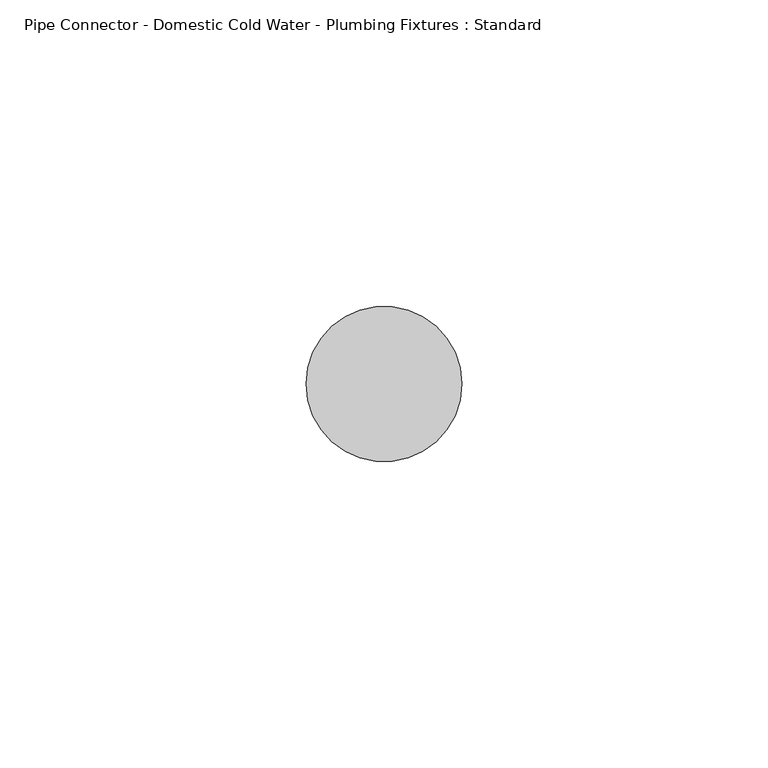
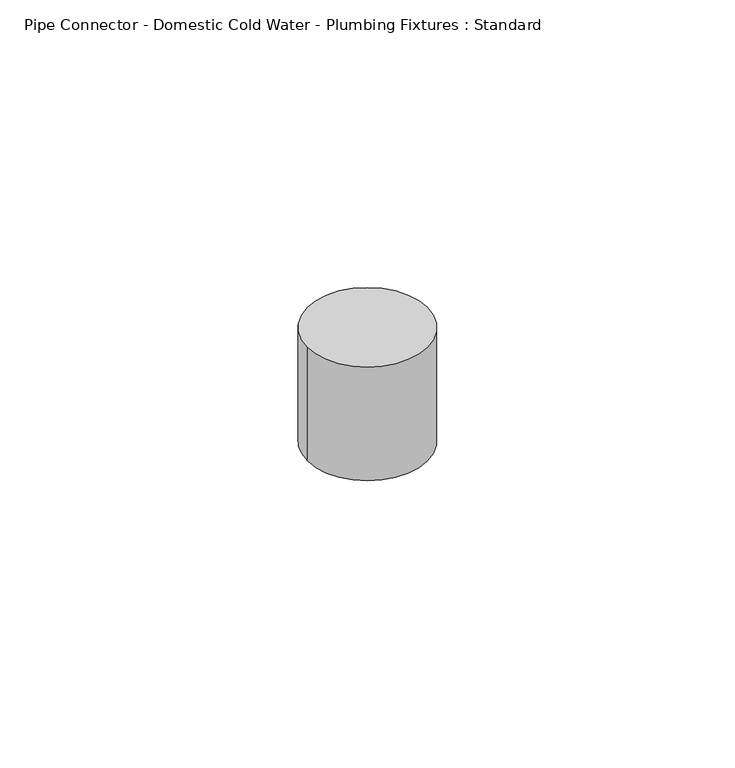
"""IFC4 building model written with IfcOpenShell, lengths in millimetres: flow terminal geometry, Pipe Connector - Domestic Cold Water - Plumbing Fixtures : Standard."""

from ifc_helpers import new_model, si_unit, point, origin, origin_with_axes, origin_2d, place, context, project, spatial, circle_curve, trimmed, segment, composite_curve, outline, extrude, source, transform, mapped, element, save


def pipe_connector_domestic_cold_water_plumbing_fixtures_790c04ce(model_context):
    return source(origin(), model_context, "Body", "SweptSolid", [
        extrude(outline(composite_curve([segment(trimmed(circle_curve(origin_2d(), 12.7), [point((-12.7, 0.0))], [point((12.7, 0.0))], False, "CARTESIAN"), True, "CONTINUOUS"), segment(trimmed(circle_curve(origin_2d(), 12.7), [point((12.7, 0.0))], [point((-12.7, 0.0))], False, "CARTESIAN"), True, "CONTINUOUS")], self_intersect=False)), origin_with_axes(), (0.0, 0.0, 1.0), 25.4),
    ])


if __name__ == "__main__":
    model = new_model("IFC4")
    model_context = context("Model", 3, world=origin())
    ifc_project = project(units=[si_unit("LENGTHUNIT", "METRE", prefix="MILLI")], contexts=[model_context])
    site = spatial("IfcSite", under=ifc_project)
    building = spatial("IfcBuilding", under=site)
    placement = place(None, origin())
    pipe_connector_domestic_cold_water_plumbing_fixtures_shape = pipe_connector_domestic_cold_water_plumbing_fixtures_790c04ce(model_context)
    element("IfcFlowTerminal", 1, ObjectType="Pipe Connector - Domestic Cold Water - Plumbing Fixtures : Standard", at=placement, inside=building, context=model_context, shape_type="MappedRepresentation", body=[
        mapped(pipe_connector_domestic_cold_water_plumbing_fixtures_shape, transform((0.0, 0.0, 0.0), x_axis=(1.0, 0.0, 0.0), y_axis=(0.0, 1.0, 0.0), z_axis=(0.0, 0.0, 1.0))),
    ])
    save(model, "model.ifc")
